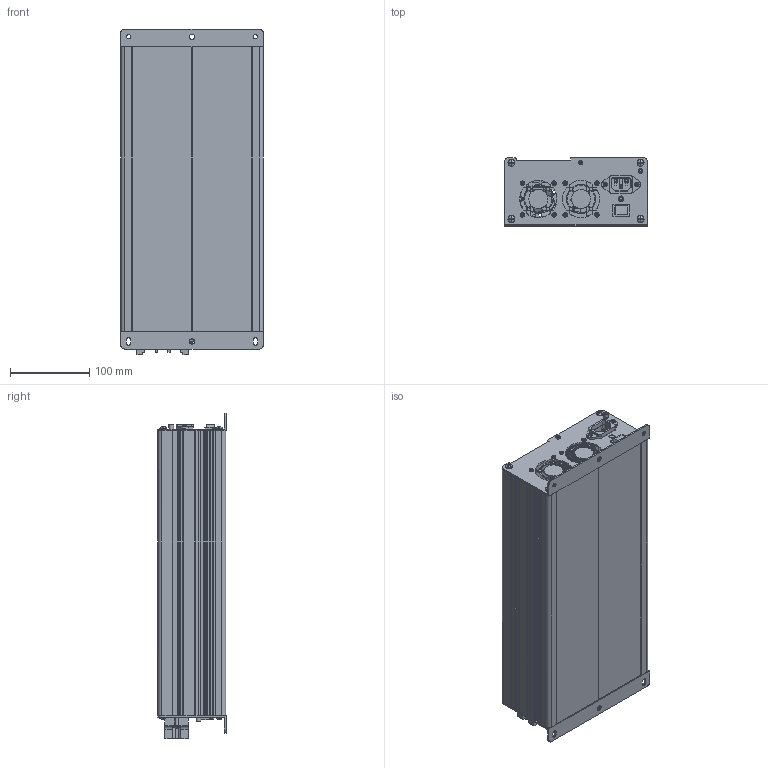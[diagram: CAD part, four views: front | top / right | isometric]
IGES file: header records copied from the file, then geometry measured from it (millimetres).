
Global section: file name: TC-1500W_2023.06.29; native system: Autodesk Inventor 2021; preprocessor: unknown; author: eunsol jang; date: 20230629.134701; units: inch
Bounding box: 180 x 86 x 411.3 mm (x, y, z)
Volume: 1220254.7 mm3; surface area: 718340 mm2
Topology: 6 solids, 8 shells, 3234 faces, 9004 edges, 5960 vertices
Faces by surface type: bspline 3234
